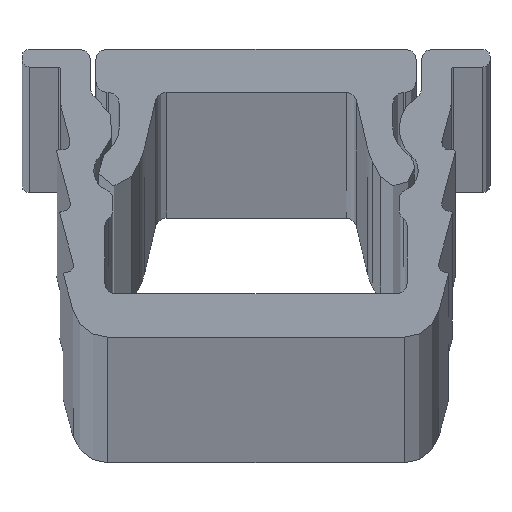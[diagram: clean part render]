
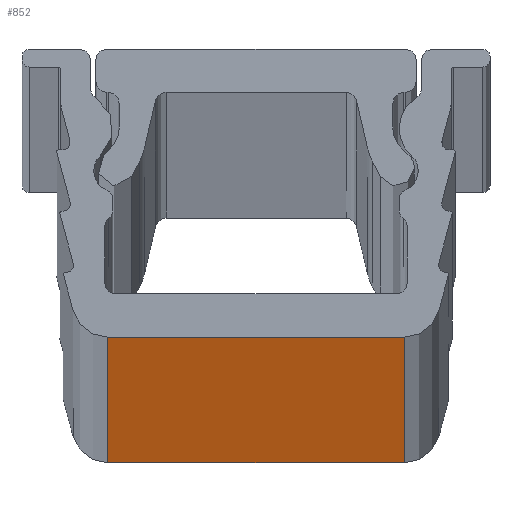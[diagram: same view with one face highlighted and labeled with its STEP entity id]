
A CAD part, top view. The second image highlights one B-rep face of the part: STEP entity #852.
In plain terms, the highlighted planar face has unit normal (0, -1, 0).
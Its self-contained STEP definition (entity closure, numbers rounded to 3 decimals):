
#127 = VECTOR ( 'NONE', #2087, 1000. ) ;
#199 = ORIENTED_EDGE ( 'NONE', *, *, #1261, .F. ) ;
#236 = CARTESIAN_POINT ( 'NONE',  ( -4.116, 0., 2000. ) ) ;
#259 = EDGE_LOOP ( 'NONE', ( #3067, #3874, #199, #3691 ) ) ;
#280 = VECTOR ( 'NONE', #1413, 1000. ) ;
#412 = DIRECTION ( 'NONE',  ( 1., 0., 0. ) ) ;
#593 = VERTEX_POINT ( 'NONE', #236 ) ;
#800 = EDGE_CURVE ( 'NONE', #2170, #1503, #1710, .T. ) ;
#843 = LINE ( 'NONE', #3046, #127 ) ;
#852 = ADVANCED_FACE ( 'NONE', ( #3837 ), #1996, .F. ) ;
#964 = CARTESIAN_POINT ( 'NONE',  ( 4.116, 0., 2000. ) ) ;
#998 = AXIS2_PLACEMENT_3D ( 'NONE', #2675, #3563, #2059 ) ;
#1048 = LINE ( 'NONE', #3900, #3942 ) ;
#1261 = EDGE_CURVE ( 'NONE', #593, #2368, #1048, .T. ) ;
#1413 = DIRECTION ( 'NONE',  ( 0., 0., -1. ) ) ;
#1503 = VERTEX_POINT ( 'NONE', #3312 ) ;
#1710 = LINE ( 'NONE', #3543, #2774 ) ;
#1996 = PLANE ( 'NONE',  #998 ) ;
#2059 = DIRECTION ( 'NONE',  ( 0., 0., 1. ) ) ;
#2087 = DIRECTION ( 'NONE',  ( 0., 0., -1. ) ) ;
#2132 = EDGE_CURVE ( 'NONE', #2368, #1503, #2676, .T. ) ;
#2170 = VERTEX_POINT ( 'NONE', #2940 ) ;
#2368 = VERTEX_POINT ( 'NONE', #964 ) ;
#2675 = CARTESIAN_POINT ( 'NONE',  ( -4.116, 0., 2000. ) ) ;
#2676 = LINE ( 'NONE', #3590, #280 ) ;
#2759 = EDGE_CURVE ( 'NONE', #593, #2170, #843, .T. ) ;
#2774 = VECTOR ( 'NONE', #3925, 1000. ) ;
#2940 = CARTESIAN_POINT ( 'NONE',  ( -4.116, 0., 0. ) ) ;
#3046 = CARTESIAN_POINT ( 'NONE',  ( -4.116, 0., 2000. ) ) ;
#3067 = ORIENTED_EDGE ( 'NONE', *, *, #800, .T. ) ;
#3312 = CARTESIAN_POINT ( 'NONE',  ( 4.116, 0., 0. ) ) ;
#3543 = CARTESIAN_POINT ( 'NONE',  ( -4.116, 0., 0. ) ) ;
#3563 = DIRECTION ( 'NONE',  ( 0., 1., 0. ) ) ;
#3590 = CARTESIAN_POINT ( 'NONE',  ( 4.116, 0., 2000. ) ) ;
#3691 = ORIENTED_EDGE ( 'NONE', *, *, #2759, .T. ) ;
#3837 = FACE_OUTER_BOUND ( 'NONE', #259, .T. ) ;
#3874 = ORIENTED_EDGE ( 'NONE', *, *, #2132, .F. ) ;
#3900 = CARTESIAN_POINT ( 'NONE',  ( -4.116, 0., 2000. ) ) ;
#3925 = DIRECTION ( 'NONE',  ( 1., 0., 0. ) ) ;
#3942 = VECTOR ( 'NONE', #412, 1000. ) ;
